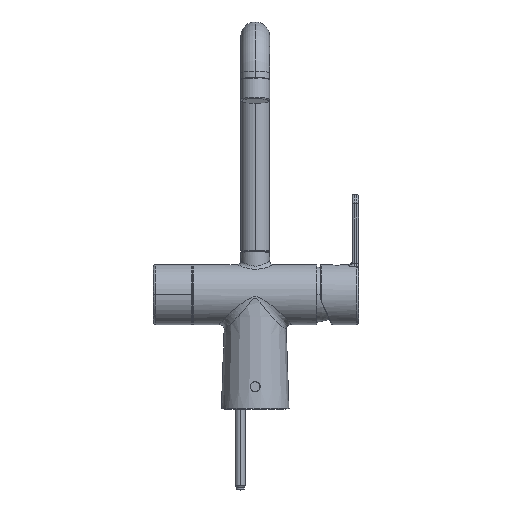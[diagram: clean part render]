
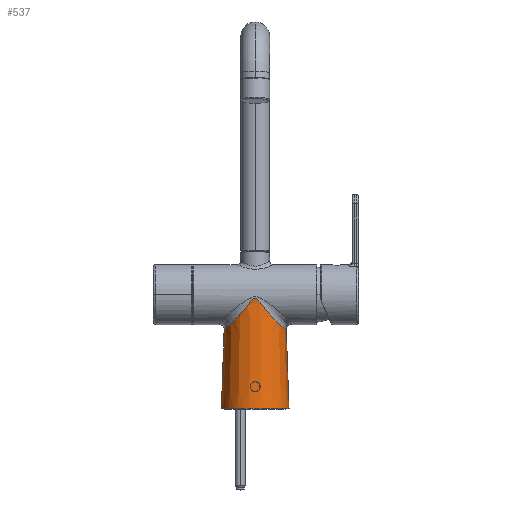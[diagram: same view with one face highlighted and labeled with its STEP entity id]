
A CAD part, top view. The second image highlights one B-rep face of the part: STEP entity #537.
In plain terms, the highlighted conical face has half-angle 2 degrees and reference radius 25.461 mm.
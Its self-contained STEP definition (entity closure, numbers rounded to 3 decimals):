
#1=CARTESIAN_POINT('',(-24.805,62.86,0.));
#2=CARTESIAN_POINT('',(-24.805,62.861,0.528));
#3=CARTESIAN_POINT('',(-24.77,62.889,1.583));
#4=CARTESIAN_POINT('',(-24.61,63.02,3.204));
#5=CARTESIAN_POINT('',(-24.332,63.25,4.849));
#6=CARTESIAN_POINT('',(-23.925,63.591,6.526));
#7=CARTESIAN_POINT('',(-23.399,64.037,8.17));
#8=CARTESIAN_POINT('',(-22.743,64.6,9.801));
#9=CARTESIAN_POINT('',(-21.968,65.275,11.382));
#10=CARTESIAN_POINT('',(-21.067,66.075,12.921));
#11=CARTESIAN_POINT('',(-20.064,66.985,14.374));
#12=CARTESIAN_POINT('',(-19.011,67.964,15.683));
#13=CARTESIAN_POINT('',(-17.944,68.981,16.836));
#14=CARTESIAN_POINT('',(-16.614,70.283,18.106));
#15=CARTESIAN_POINT('',(-15.032,71.892,19.378));
#16=CARTESIAN_POINT('',(-13.269,73.774,20.536));
#17=CARTESIAN_POINT('',(-11.684,75.541,21.399));
#18=CARTESIAN_POINT('',(-10.262,77.189,22.048));
#19=CARTESIAN_POINT('',(-8.983,78.718,22.538));
#20=CARTESIAN_POINT('',(-7.829,80.132,22.91));
#21=CARTESIAN_POINT('',(-6.784,81.433,23.192));
#22=CARTESIAN_POINT('',(-5.833,82.626,23.405));
#23=CARTESIAN_POINT('',(-4.962,83.716,23.565));
#24=CARTESIAN_POINT('',(-4.162,84.704,23.683));
#25=CARTESIAN_POINT('',(-3.42,85.588,23.77));
#26=CARTESIAN_POINT('',(-2.833,86.249,23.822));
#27=CARTESIAN_POINT('',(-2.381,86.72,23.854));
#28=CARTESIAN_POINT('',(-2.059,87.034,23.873));
#29=CARTESIAN_POINT('',(-1.738,87.319,23.888));
#30=CARTESIAN_POINT('',(-1.427,87.566,23.9));
#31=CARTESIAN_POINT('',(-1.117,87.775,23.909));
#32=CARTESIAN_POINT('',(-0.819,87.935,23.916));
#33=CARTESIAN_POINT('',(-0.523,88.049,23.92));
#34=CARTESIAN_POINT('',(-0.239,88.113,23.922));
#35=CARTESIAN_POINT('',(0.043,88.128,23.923));
#36=CARTESIAN_POINT('',(0.324,88.096,23.922));
#37=CARTESIAN_POINT('',(0.608,88.016,23.919));
#38=CARTESIAN_POINT('',(0.902,87.887,23.915));
#39=CARTESIAN_POINT('',(1.196,87.714,23.908));
#40=CARTESIAN_POINT('',(1.502,87.494,23.898));
#41=CARTESIAN_POINT('',(1.808,87.238,23.886));
#42=CARTESIAN_POINT('',(2.125,86.942,23.87));
#43=CARTESIAN_POINT('',(2.444,86.618,23.851));
#44=CARTESIAN_POINT('',(2.891,86.134,23.819));
#45=CARTESIAN_POINT('',(3.471,85.458,23.767));
#46=CARTESIAN_POINT('',(4.202,84.555,23.681));
#47=CARTESIAN_POINT('',(4.989,83.55,23.565));
#48=CARTESIAN_POINT('',(5.844,82.443,23.408));
#49=CARTESIAN_POINT('',(6.777,81.231,23.201));
#50=CARTESIAN_POINT('',(7.803,79.911,22.927));
#51=CARTESIAN_POINT('',(8.937,78.479,22.565));
#52=CARTESIAN_POINT('',(10.196,76.933,22.088));
#53=CARTESIAN_POINT('',(11.6,75.27,21.455));
#54=CARTESIAN_POINT('',(13.171,73.493,20.61));
#55=CARTESIAN_POINT('',(14.928,71.607,19.47));
#56=CARTESIAN_POINT('',(16.516,70.005,18.209));
#57=CARTESIAN_POINT('',(17.856,68.717,16.943));
#58=CARTESIAN_POINT('',(18.929,67.721,15.795));
#59=CARTESIAN_POINT('',(19.986,66.773,14.496));
#60=CARTESIAN_POINT('',(20.99,65.902,13.057));
#61=CARTESIAN_POINT('',(21.895,65.141,11.532));
#62=CARTESIAN_POINT('',(22.679,64.5,9.958));
#63=CARTESIAN_POINT('',(23.346,63.968,8.327));
#64=CARTESIAN_POINT('',(23.889,63.546,6.667));
#65=CARTESIAN_POINT('',(24.31,63.224,4.967));
#66=CARTESIAN_POINT('',(24.6,63.008,3.287));
#67=CARTESIAN_POINT('',(24.768,62.886,1.626));
#68=CARTESIAN_POINT('',(24.805,62.86,0.542));
#69=CARTESIAN_POINT('',(24.805,62.86,0.));
#71=CARTESIAN_POINT('',(0.,0.035,0.));
#72=DIRECTION('',(0.,-1.,0.));
#73=DIRECTION('',(1.,0.,0.));
#74=AXIS2_PLACEMENT_3D('',#71,#72,#73);
#76=CARTESIAN_POINT('',(24.805,62.86,0.));
#145=CARTESIAN_POINT('',(-24.805,62.86,
0.));
#147=DIRECTION('',(0.035,0.999,0.));
#148=VECTOR('',#147,62.864);
#149=CARTESIAN_POINT('',(-26.999,0.035,0.));
#150=LINE('',#149,#148);
#156=DIRECTION('',(-0.035,0.999,0.));
#157=VECTOR('',#156,62.864);
#158=CARTESIAN_POINT('',(26.999,0.035,0.));
#159=LINE('',#158,#157);
#494=VERTEX_POINT('',#76);
#495=VERTEX_POINT('',#145);
#510=CARTESIAN_POINT('',(-26.999,0.035,0.));
#511=CARTESIAN_POINT('',(26.999,0.035,0.));
#512=VERTEX_POINT('',#510);
#513=VERTEX_POINT('',#511);
#522=CARTESIAN_POINT('',(0.,44.078,0.));
#523=DIRECTION('',(0.,-1.,0.));
#524=DIRECTION('',(-1.,0.,0.));
#525=AXIS2_PLACEMENT_3D('',#522,#523,#524);
#526=CONICAL_SURFACE('',#525,25.461,2.);
#528=ORIENTED_EDGE('',*,*,#527,.T.);
#530=ORIENTED_EDGE('',*,*,#529,.F.);
#532=ORIENTED_EDGE('',*,*,#531,.T.);
#534=ORIENTED_EDGE('',*,*,#533,.T.);
#535=EDGE_LOOP('',(#528,#530,#532,#534));
#536=FACE_OUTER_BOUND('',#535,.F.);
#537=ADVANCED_FACE('',(#536),#526,.T.);
#70=B_SPLINE_CURVE_WITH_KNOTS('',3,(#1,#2,#3,#4,#5,#6,#7,#8,#9,#10,#11,#12,#13,
#14,#15,#16,#17,#18,#19,#20,#21,#22,#23,#24,#25,#26,#27,#28,#29,#30,#31,#32,#33,
#34,#35,#36,#37,#38,#39,#40,#41,#42,#43,#44,#45,#46,#47,#48,#49,#50,#51,#52,#53,
#54,#55,#56,#57,#58,#59,#60,#61,#62,#63,#64,#65,#66,#67,#68,#69),.UNSPECIFIED.,
.F.,.F.,(4,1,1,1,1,1,1,1,1,1,1,1,1,1,1,1,1,1,1,1,1,1,1,1,1,1,1,1,1,1,1,1,1,1,1,
1,1,1,1,1,1,1,1,1,1,1,1,1,1,1,1,1,1,1,1,1,1,1,1,1,1,1,1,1,1,1,4),(0.,
0.016,0.033,0.051,0.068,
0.087,0.106,0.126,0.146,
0.166,0.187,0.206,0.224,
0.257,0.286,0.312,0.336,
0.357,0.376,0.394,0.409,
0.424,0.437,0.45,0.461,
0.466,0.471,0.476,0.48,
0.485,0.489,0.493,0.496,
0.5,0.503,0.507,0.511,
0.515,0.52,0.524,0.529,
0.534,0.539,0.55,0.563,
0.576,0.591,0.607,0.624,
0.643,0.664,0.688,0.714,
0.743,0.775,0.794,0.812,
0.833,0.853,0.873,0.893,
0.911,0.93,0.948,0.966,
0.983,1.),.UNSPECIFIED.);
#75=CIRCLE('',#74,26.999);
#527=EDGE_CURVE('',#495,#494,#70,.T.);
#529=EDGE_CURVE('',#513,#494,#159,.T.);
#531=EDGE_CURVE('',#513,#512,#75,.T.);
#533=EDGE_CURVE('',#512,#495,#150,.T.);
